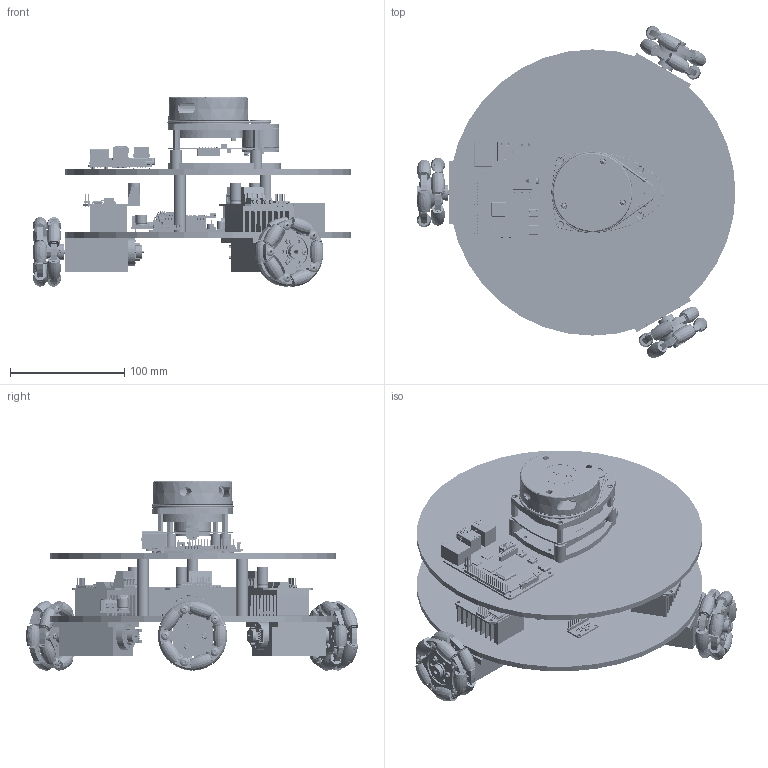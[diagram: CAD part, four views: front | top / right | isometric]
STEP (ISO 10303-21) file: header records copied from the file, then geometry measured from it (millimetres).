
FILE_DESCRIPTION(/* description */ (''),/* implementation_level */ '2;1');
FILE_NAME(/* name */ 'Robot 3.step',/* time_stamp */ '2025-11-19T00:15:59+07:00',/* author */ (''),/* organization */ (''),/* preprocessor_version */ 'ST-DEVELOPER v20.1',/* originating_system */ 'Autodesk Translation Framework v14.21.0.0',/* authorisation */ '');
FILE_SCHEMA (('AUTOMOTIVE_DESIGN { 1 0 10303 214 3 1 1 }'));
Products named in the file (111): Robot 3; Kaki; OmniWheel_Asm; WheelAsm.STEP; BasePlacer.STEP; ShaftConnector.STEP; WheelBase.STEP; RubberWheel.STEP; Rivet.STEP; M3HexNut.STEP; Motor; BTS7960 43A HIGH POWER H BRIDGE MODULE; BTS7960 43A HIGH POWER H BRIDGE MODULE_1; BTS7960 43A HIGH POWER H BRIDGE MODULE_2; PCB, BTS7960 43A HIGH POWER H BRIDGE MODULE; HEATSINK, BTS7960 43A HIGH POWER H BRIDGE MODULE; ALUMINUM ELECTROLYTIC CAPACITOR, 330 uF, BTS7960 43A HIGH POWER H BRI
DGE MODULE; BTN7960 IC, BTS7960 43A HIGH POWER H BRIDGE MODULE; NXP 74HC244D, BUFFER AND LINE DRIVER, BTS7960 43A HIGH POWER H BRIDGE
 MODULE; 8 PIN HEADER, IC, BTS7960 43A HIGH POWER H BRIDGE MODULE; EUROSTYLE TERMINAL BLOCK 2 POS 5.0 MM RA PLUG, BTS7960 43A HIGH POWER
 H BRIDGE MODULE; Shield ESP32 1; C_0805_2012Metric; CP_Elec_6.3x5.4; SOT-223; PinSocket_2x15_P2.54mm_Vertical; PinHeader_2x03_P2.54mm_Vertical; CP_Elec_6.3x7.7; PinSocket_1x15_P2.54mm_Vertical; ESP-WROOM32; micro_usb_47346-0001; ESP-WROOM-32; 6.ESP-32_Predeterminado; PinSocket_2x03_P2.54mm_Vertical; USB_C_Receptacle_GCT_USB4105-xx-A_16P_TopMnt_Horizontal; D_SMA; R_0805_2012Metric; LED_0805_2012Metric; BarrelJack_Horizontal; Shield ESP32_copper ...
Assembly tree (227 placements, depth 5):
  Robot 3
    Kaki  x3
      OmniWheel_Asm
        WheelAsm.STEP
          WheelBase.STEP  x2
          BasePlacer.STEP
          RubberWheel.STEP  x10
          Rivet.STEP  x10
          ShaftConnector.STEP
          M3HexNut.STEP  x6
      Motor
    BTS7960 43A HIGH POWER H BRIDGE MODULE
      PCB, BTS7960 43A HIGH POWER H BRIDGE MODULE
      HEATSINK, BTS7960 43A HIGH POWER H BRIDGE MODULE
      ALUMINUM ELECTROLYTIC CAPACITOR, 330 uF, BTS7960 43A HIGH POWER H BRI
DGE MODULE
      BTN7960 IC, BTS7960 43A HIGH POWER H BRIDGE MODULE  x2
      NXP 74HC244D, BUFFER AND LINE DRIVER, BTS7960 43A HIGH POWER H BRIDGE
 MODULE
      8 PIN HEADER, IC, BTS7960 43A HIGH POWER H BRIDGE MODULE
      EUROSTYLE TERMINAL BLOCK 2 POS 5.0 MM RA PLUG, BTS7960 43A HIGH POWER
 H BRIDGE MODULE  x2
    BTS7960 43A HIGH POWER H BRIDGE MODULE_1
      PCB, BTS7960 43A HIGH POWER H BRIDGE MODULE
      HEATSINK, BTS7960 43A HIGH POWER H BRIDGE MODULE
      ALUMINUM ELECTROLYTIC CAPACITOR, 330 uF, BTS7960 43A HIGH POWER H BRI
DGE MODULE
      BTN7960 IC, BTS7960 43A HIGH POWER H BRIDGE MODULE  x2
      NXP 74HC244D, BUFFER AND LINE DRIVER, BTS7960 43A HIGH POWER H BRIDGE
 MODULE
      8 PIN HEADER, IC, BTS7960 43A HIGH POWER H BRIDGE MODULE
      EUROSTYLE TERMINAL BLOCK 2 POS 5.0 MM RA PLUG, BTS7960 43A HIGH POWER
 H BRIDGE MODULE  x2
    BTS7960 43A HIGH POWER H BRIDGE MODULE_2
      PCB, BTS7960 43A HIGH POWER H BRIDGE MODULE
      HEATSINK, BTS7960 43A HIGH POWER H BRIDGE MODULE
      ALUMINUM ELECTROLYTIC CAPACITOR, 330 uF, BTS7960 43A HIGH POWER H BRI
DGE MODULE
      BTN7960 IC, BTS7960 43A HIGH POWER H BRIDGE MODULE  x2
      NXP 74HC244D, BUFFER AND LINE DRIVER, BTS7960 43A HIGH POWER H BRIDGE
 MODULE
      8 PIN HEADER, IC, BTS7960 43A HIGH POWER H BRIDGE MODULE
      EUROSTYLE TERMINAL BLOCK 2 POS 5.0 MM RA PLUG, BTS7960 43A HIGH POWER
 H BRIDGE MODULE  x2
    Shield ESP32 1
      C_0805_2012Metric  x2
      CP_Elec_6.3x5.4  x2
      SOT-223  x2
      PinSocket_2x15_P2.54mm_Vertical  x2
      PinHeader_2x03_P2.54mm_Vertical  x2
      CP_Elec_6.3x7.7
      PinSocket_1x15_P2.54mm_Vertical  x2
      ESP-WROOM32
        micro_usb_47346-0001
        ESP-WROOM-32
        6.ESP-32_Predeterminado
      PinSocket_2x03_P2.54mm_Vertical  x2
      USB_C_Receptacle_GCT_USB4105-xx-A_16P_TopMnt_Horizontal
      D_SMA
      R_0805_2012Metric
      LED_0805_2012Metric
      BarrelJack_Horizontal
      Shield ESP32_copper
      Shield ESP32_silkscreen
      Shield ESP32_soldermask
      Shield ESP32_PCB
    XL4015 StepDown DC-DC 5A (CC-CV)
      Basetta
      DG301-5.0-02 v1  x2
Bounding box: 278.65 x 290.05 x 165.45 mm (x, y, z)
Volume: 1060771.6 mm3; surface area: 637581.8 mm2
Topology: 669 solids, 888 shells, 35185 faces, 97370 edges, 64747 vertices
Faces by surface type: plane 24061, cylinder 7142, bspline 2651, torus 685, sphere 338, cone 308
Full cylindrical faces by diameter (mm): 0.35 x2, 0.392 x1, 0.4 x4, 0.5 x9, 0.51 x6, 0.55 x6, 0.65 x2, 0.7 x118, 0.9 x2, 0.95 x86, 0.99 x30, 1 x295, 1.04 x60, 1.1 x4, 1.3 x30, 1.386 x2, 1.4 x1, 1.5 x28, 1.7 x160, 1.8 x4, 1.992 x2, 2 x128, 2.19 x2, 2.2 x11, 2.3 x6, 2.5 x14, 2.6 x15, 2.7 x14, 2.9 x4, 3 x147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
Entity records: 989008 total; most frequent: CARTESIAN_POINT 264448, ORIENTED_EDGE 150562, DIRECTION 138505, EDGE_CURVE 77655, LINE 58679, VECTOR 58679, VERTEX_POINT 51943, AXIS2_PLACEMENT_3D 39913
